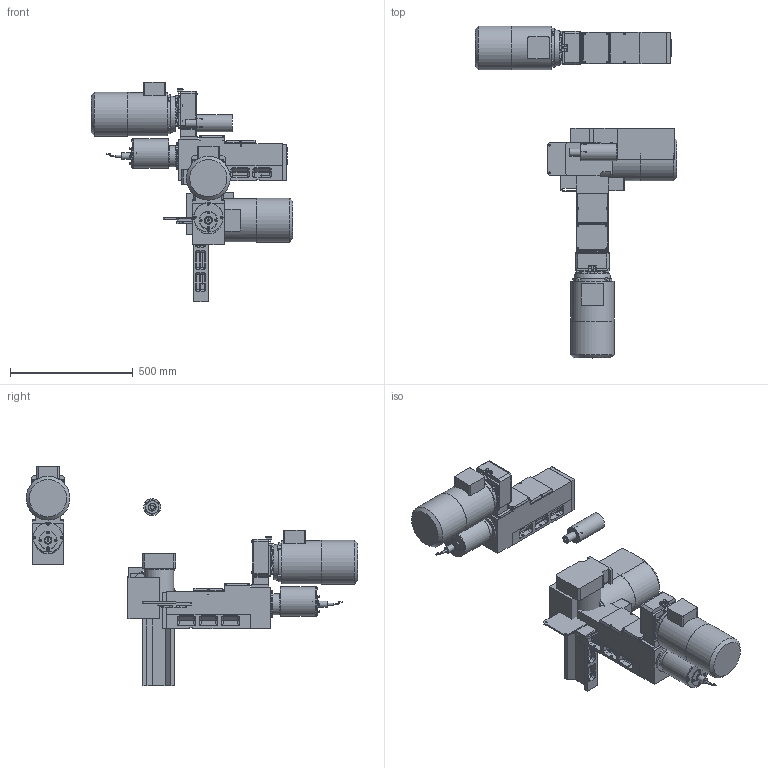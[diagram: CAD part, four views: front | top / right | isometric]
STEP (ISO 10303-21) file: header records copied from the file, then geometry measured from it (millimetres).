
FILE_DESCRIPTION( ( 'STEP AP203' ), '1' );
FILE_NAME( 'C:/Documents and Settings/Saverio/Desktop/disegni ironcad/unità serie 2/M216 (ex M220)/M 216_A04_P.stp', '2014-03-25T09:44:15', ( ' ' ), ( ' ' ), 'XStep 1.0', ' ', ' ' );
FILE_SCHEMA( ( 'CONFIG_CONTROL_DESIGN' ) );
Length unit declared in the file: metre
Products named in the file (47): Assem1; Assem2; Assem3; 1; 2; 3; 4; 5; 6; 7; 8; 9; 10; 11; 12; 13; 14; 15; 16; 17; 18; 19; 20; 21; 22; 23; 24; 25; 26; 27; 28; 29; 30; 31; 32; 33; 34; 35; 36; 37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
Bounding box: 823.57 x 1353.73 x 894.21 mm (x, y, z)
Volume: 56348769.4 mm3; surface area: 3920795.2 mm2
Topology: 132 solids, 132 shells, 3096 faces, 7011 edges, 4254 vertices
Faces by surface type: plane 1659, cylinder 795, cone 408, bspline 126, sphere 60, torus 48
Full cylindrical faces by diameter (mm): 5 x72, 5.25 x12, 5.5 x33, 6.5 x18, 6.637 x15, 6.647 x12, 7 x3, 8 x3, 8.385 x3, 8.5 x48, 8.75 x18, 16 x3, 18 x3, 24 x3, 26 x3, 31.2 x3, 32 x6, 52 x3, 53 x3, 54 x6, 70 x9, 74 x6, 76 x3, 80 x6, 86 x3, 95 x3, 112 x3, 120 x6, 177.21 x3, 179 x3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
Entity records: 31644 total; most frequent: CARTESIAN_POINT 7968, DIRECTION 4505, ORIENTED_EDGE 3996, EDGE_CURVE 1998, AXIS2_PLACEMENT_3D 1674, EDGE_LOOP 1407, VERTEX_POINT 1366, FACE_OUTER_BOUND 1159
